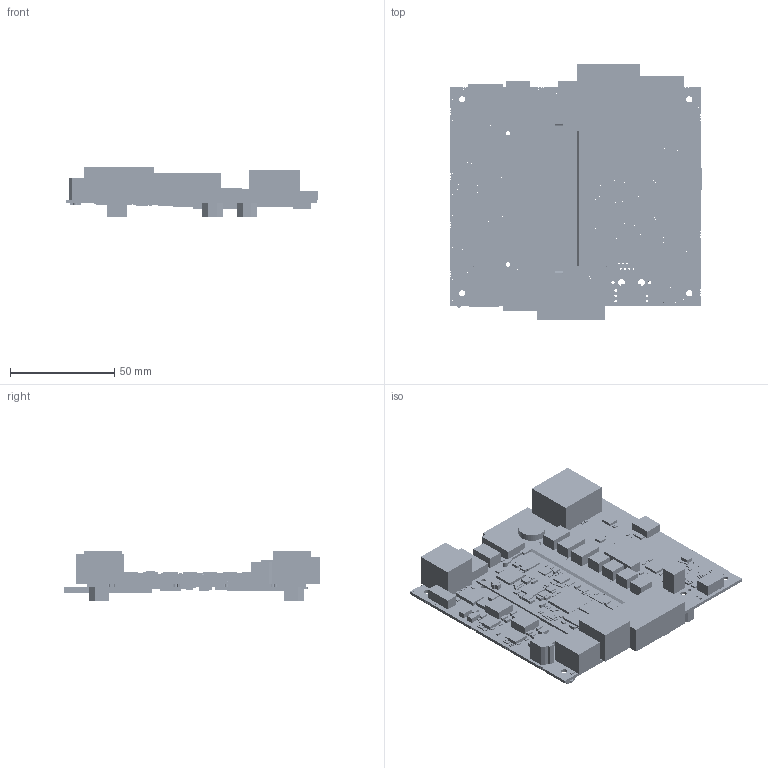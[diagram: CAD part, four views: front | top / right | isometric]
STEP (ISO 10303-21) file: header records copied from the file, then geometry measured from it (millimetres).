
FILE_DESCRIPTION (( 'STEP AP203' ), '1' );
FILE_NAME ('Variscite-July-2012-26-07-2012.STEP', '2012-07-26T08:46:04', ( 'gaby' ), ( '' ), 'SwSTEP 2.0', 'SolidWorks 2011', '' );
FILE_SCHEMA (( 'CONFIG_CONTROL_DESIGN' ));
Length unit declared in the file: millimetre
Products named in the file (5): am33_rev1_0_one; VAR-AM33-22-07-2012; 10033853-0XXXX_Downloaded; VAR-AM33-CustomBoard-V-1.0_end; Variscite-July-2012-26-07-2012
Assembly tree (4 placements, depth 3):
  Variscite-July-2012-26-07-2012
    VAR-AM33-22-07-2012
      10033853-0XXXX_Downloaded
      VAR-AM33-CustomBoard-V-1.0_end
    am33_rev1_0_one
Bounding box: 120.32 x 123.05 x 23.67 mm (x, y, z)
Volume: 74223.4 mm3; surface area: 72016.5 mm2
Topology: 671 solids, 671 shells, 11698 faces, 29032 edges, 18486 vertices
Faces by surface type: plane 8330, cylinder 3364, cone 4
Entity records: 348083 total; most frequent: DIRECTION 59576, CARTESIAN_POINT 59236, ORIENTED_EDGE 58064, EDGE_CURVE 29032, VECTOR 21892, LINE 21892, AXIS2_PLACEMENT_3D 18842, VERTEX_POINT 18486
